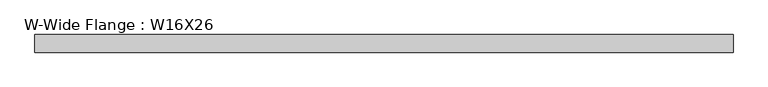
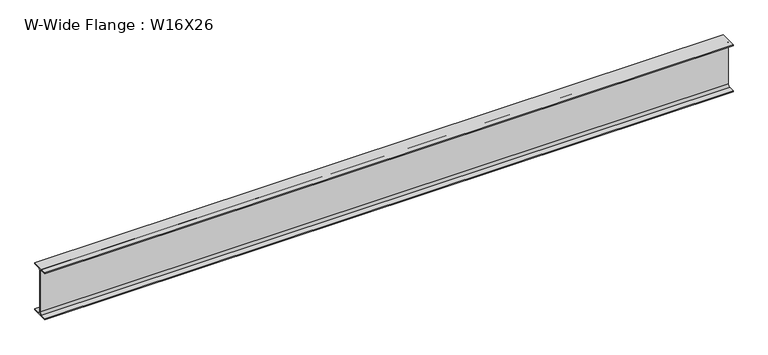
"""IFC4 building model written with IfcOpenShell, lengths in millimetres: beam geometry, W-Wide Flange : W16X26."""

from ifc_helpers import new_model, si_unit, point, frame, frame_2d, origin, place, context, project, spatial, polyline, circle_curve, trimmed, segment, composite_curve, outline, extrude, source, transform, mapped, element, save


def w_wide_flange_w16x26_a72f614c(model_context):
    return source(origin(), model_context, "Body", "SweptSolid", [
        extrude(outline(composite_curve([segment(polyline([(69.85, -190.5496094), (69.85, -199.2808594), (-69.85, -199.2808594), (-69.85, -190.5496094), (-21.43125, -190.5496094)]), True, "CONTINUOUS"), segment(trimmed(circle_curve(frame_2d((-21.43125, -172.2933594)), 18.25625), [point((-21.43125, -190.5496094))], [point((-3.175, -172.2933594))], True, "CARTESIAN"), True, "CONTINUOUS"), segment(polyline([(-3.175, -172.2933594), (-3.175, 172.2933594)]), True, "CONTINUOUS"), segment(trimmed(circle_curve(frame_2d((-21.43125, 172.2933594)), 18.25625), [point((-3.175, 172.2933594))], [point((-21.43125, 190.5496094))], True, "CARTESIAN"), True, "CONTINUOUS"), segment(polyline([(-21.43125, 190.5496094), (-69.85, 190.5496094), (-69.85, 199.2808594), (69.85, 199.2808594), (69.85, 190.5496094), (21.43125, 190.5496094)]), True, "CONTINUOUS"), segment(trimmed(circle_curve(frame_2d((21.43125, 172.2933594)), 18.25625), [point((21.43125, 190.5496094))], [point((3.175, 172.2933594))], True, "CARTESIAN"), True, "CONTINUOUS"), segment(polyline([(3.175, 172.2933594), (3.175, -172.2933594)]), True, "CONTINUOUS"), segment(trimmed(circle_curve(frame_2d((21.43125, -172.2933594)), 18.25625), [point((3.175, -172.2933594))], [point((21.43125, -190.5496094))], True, "CARTESIAN"), True, "CONTINUOUS"), segment(polyline([(21.43125, -190.5496094), (69.85, -190.5496094)]), True, "CONTINUOUS")], self_intersect=False)), frame((-2813.05, 0.0, 0.0), z_axis=(1.0, 0.0, 0.0), x_axis=(0.0, 1.0, 0.0)), (0.0, 0.0, 1.0), 5527.2892295),
    ])


if __name__ == "__main__":
    model = new_model("IFC4")
    model_context = context("Model", 3, world=origin())
    ifc_project = project(units=[si_unit("LENGTHUNIT", "METRE", prefix="MILLI")], contexts=[model_context])
    site = spatial("IfcSite", under=ifc_project)
    building = spatial("IfcBuilding", under=site)
    placement = place(None, origin())
    w_wide_flange_w16x26_shape = w_wide_flange_w16x26_a72f614c(model_context)
    element("IfcBeam", 1, ObjectType="W-Wide Flange : W16X26", at=placement, inside=building, context=model_context, shape_type="MappedRepresentation", body=[
        mapped(w_wide_flange_w16x26_shape, transform((0.0, 0.0, 0.0), x_axis=(1.0, 0.0, 0.0), y_axis=(0.0, 1.0, 0.0), z_axis=(0.0, 0.0, 1.0))),
    ])
    save(model, "model.ifc")
